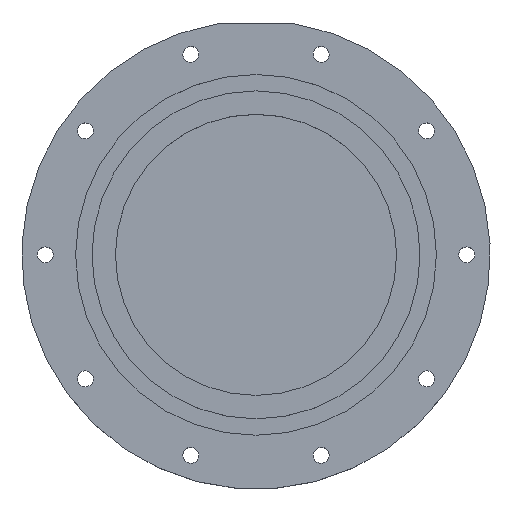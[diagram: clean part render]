
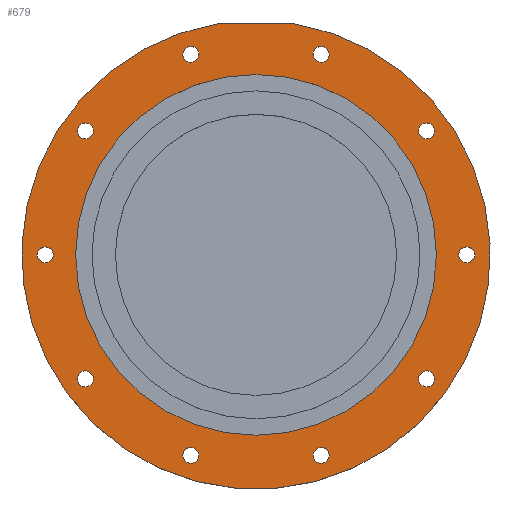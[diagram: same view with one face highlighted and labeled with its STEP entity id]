
A CAD part, top view. The second image highlights one B-rep face of the part: STEP entity #679.
In plain terms, the highlighted planar face has unit normal (0, 0, 1).
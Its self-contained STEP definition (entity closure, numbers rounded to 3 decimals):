
#37=FACE_BOUND('',#175,.T.);
#38=FACE_BOUND('',#176,.T.);
#39=FACE_BOUND('',#177,.T.);
#40=FACE_BOUND('',#178,.T.);
#41=FACE_BOUND('',#179,.T.);
#42=FACE_BOUND('',#180,.T.);
#43=FACE_BOUND('',#181,.T.);
#44=FACE_BOUND('',#182,.T.);
#45=FACE_BOUND('',#183,.T.);
#46=FACE_BOUND('',#184,.T.);
#47=FACE_BOUND('',#185,.T.);
#66=PLANE('',#796);
#108=FACE_OUTER_BOUND('',#174,.T.);
#174=EDGE_LOOP('',(#589,#590));
#175=EDGE_LOOP('',(#591));
#176=EDGE_LOOP('',(#592));
#177=EDGE_LOOP('',(#593));
#178=EDGE_LOOP('',(#594));
#179=EDGE_LOOP('',(#595));
#180=EDGE_LOOP('',(#596));
#181=EDGE_LOOP('',(#597));
#182=EDGE_LOOP('',(#598));
#183=EDGE_LOOP('',(#599));
#184=EDGE_LOOP('',(#600));
#185=EDGE_LOOP('',(#601));
#196=LINE('',#1085,#227);
#227=VECTOR('',#830,10.);
#270=CIRCLE('',#730,50.);
#273=CIRCLE('',#736,1.7);
#276=CIRCLE('',#742,1.7);
#279=CIRCLE('',#748,1.7);
#282=CIRCLE('',#754,1.7);
#285=CIRCLE('',#760,1.7);
#288=CIRCLE('',#766,1.7);
#291=CIRCLE('',#772,1.7);
#294=CIRCLE('',#778,1.7);
#297=CIRCLE('',#784,1.7);
#300=CIRCLE('',#790,1.7);
#303=CIRCLE('',#795,38.5);
#312=VERTEX_POINT('',#1083);
#313=VERTEX_POINT('',#1084);
#328=VERTEX_POINT('',#1123);
#331=VERTEX_POINT('',#1134);
#334=VERTEX_POINT('',#1145);
#337=VERTEX_POINT('',#1156);
#340=VERTEX_POINT('',#1167);
#343=VERTEX_POINT('',#1178);
#346=VERTEX_POINT('',#1189);
#349=VERTEX_POINT('',#1200);
#352=VERTEX_POINT('',#1211);
#355=VERTEX_POINT('',#1222);
#358=VERTEX_POINT('',#1231);
#371=EDGE_CURVE('',#312,#313,#196,.T.);
#386=EDGE_CURVE('',#313,#312,#270,.T.);
#391=EDGE_CURVE('',#328,#328,#273,.T.);
#396=EDGE_CURVE('',#331,#331,#276,.T.);
#401=EDGE_CURVE('',#334,#334,#279,.T.);
#406=EDGE_CURVE('',#337,#337,#282,.T.);
#411=EDGE_CURVE('',#340,#340,#285,.T.);
#416=EDGE_CURVE('',#343,#343,#288,.T.);
#421=EDGE_CURVE('',#346,#346,#291,.T.);
#426=EDGE_CURVE('',#349,#349,#294,.T.);
#431=EDGE_CURVE('',#352,#352,#297,.T.);
#436=EDGE_CURVE('',#355,#355,#300,.T.);
#439=EDGE_CURVE('',#358,#358,#303,.T.);
#589=ORIENTED_EDGE('',*,*,#371,.T.);
#590=ORIENTED_EDGE('',*,*,#386,.T.);
#591=ORIENTED_EDGE('',*,*,#391,.T.);
#592=ORIENTED_EDGE('',*,*,#396,.T.);
#593=ORIENTED_EDGE('',*,*,#401,.T.);
#594=ORIENTED_EDGE('',*,*,#406,.T.);
#595=ORIENTED_EDGE('',*,*,#411,.T.);
#596=ORIENTED_EDGE('',*,*,#416,.T.);
#597=ORIENTED_EDGE('',*,*,#421,.T.);
#598=ORIENTED_EDGE('',*,*,#426,.T.);
#599=ORIENTED_EDGE('',*,*,#431,.T.);
#600=ORIENTED_EDGE('',*,*,#436,.T.);
#601=ORIENTED_EDGE('',*,*,#439,.T.);
#679=ADVANCED_FACE('',(#108,#37,#38,#39,#40,#41,#42,#43,#44,#45,#46,#47),
#66,.T.);
#730=AXIS2_PLACEMENT_3D('',#1114,#860,#861);
#736=AXIS2_PLACEMENT_3D('',#1125,#874,#875);
#742=AXIS2_PLACEMENT_3D('',#1136,#888,#889);
#748=AXIS2_PLACEMENT_3D('',#1147,#902,#903);
#754=AXIS2_PLACEMENT_3D('',#1158,#916,#917);
#760=AXIS2_PLACEMENT_3D('',#1169,#930,#931);
#766=AXIS2_PLACEMENT_3D('',#1180,#944,#945);
#772=AXIS2_PLACEMENT_3D('',#1191,#958,#959);
#778=AXIS2_PLACEMENT_3D('',#1202,#972,#973);
#784=AXIS2_PLACEMENT_3D('',#1213,#986,#987);
#790=AXIS2_PLACEMENT_3D('',#1224,#1000,#1001);
#795=AXIS2_PLACEMENT_3D('',#1232,#1010,#1011);
#796=AXIS2_PLACEMENT_3D('',#1234,#1013,#1014);
#830=DIRECTION('',(-1.,0.,0.));
#860=DIRECTION('center_axis',(0.,0.,1.));
#861=DIRECTION('ref_axis',(1.,0.,0.));
#874=DIRECTION('center_axis',(0.,0.,-1.));
#875=DIRECTION('ref_axis',(-0.809,0.588,0.));
#888=DIRECTION('center_axis',(0.,0.,-1.));
#889=DIRECTION('ref_axis',(-0.309,0.951,0.));
#902=DIRECTION('center_axis',(0.,0.,-1.));
#903=DIRECTION('ref_axis',(0.309,0.951,0.));
#916=DIRECTION('center_axis',(0.,0.,-1.));
#917=DIRECTION('ref_axis',(0.809,0.588,0.));
#930=DIRECTION('center_axis',(0.,0.,-1.));
#931=DIRECTION('ref_axis',(1.,0.,0.));
#944=DIRECTION('center_axis',(0.,0.,-1.));
#945=DIRECTION('ref_axis',(0.809,-0.588,0.));
#958=DIRECTION('center_axis',(0.,0.,-1.));
#959=DIRECTION('ref_axis',(0.309,-0.951,0.));
#972=DIRECTION('center_axis',(0.,0.,-1.));
#973=DIRECTION('ref_axis',(-0.309,-0.951,0.));
#986=DIRECTION('center_axis',(0.,0.,-1.));
#987=DIRECTION('ref_axis',(-0.809,-0.588,0.));
#1000=DIRECTION('center_axis',(0.,0.,-1.));
#1001=DIRECTION('ref_axis',(-1.,0.,0.));
#1010=DIRECTION('center_axis',(0.,0.,-1.));
#1011=DIRECTION('ref_axis',(-1.,0.,0.));
#1013=DIRECTION('center_axis',(0.,0.,1.));
#1014=DIRECTION('ref_axis',(1.,0.,0.));
#1083=CARTESIAN_POINT('',(8.,49.356,14.));
#1084=CARTESIAN_POINT('',(-8.,49.356,14.));
#1085=CARTESIAN_POINT('',(-4.,49.356,14.));
#1114=CARTESIAN_POINT('Origin',(0.,0.,14.));
#1123=CARTESIAN_POINT('',(37.781,-27.45,14.));
#1125=CARTESIAN_POINT('Origin',(36.406,-26.45,14.));
#1134=CARTESIAN_POINT('',(14.431,-44.414,14.));
#1136=CARTESIAN_POINT('Origin',(13.906,-42.798,14.));
#1145=CARTESIAN_POINT('',(-14.431,-44.414,14.));
#1147=CARTESIAN_POINT('Origin',(-13.906,-42.798,14.));
#1156=CARTESIAN_POINT('',(-37.781,-27.45,14.));
#1158=CARTESIAN_POINT('Origin',(-36.406,-26.45,14.));
#1167=CARTESIAN_POINT('',(-46.7,0.,14.));
#1169=CARTESIAN_POINT('Origin',(-45.,0.,14.));
#1178=CARTESIAN_POINT('',(-37.781,27.45,14.));
#1180=CARTESIAN_POINT('Origin',(-36.406,26.45,14.));
#1189=CARTESIAN_POINT('',(-14.431,44.414,14.));
#1191=CARTESIAN_POINT('Origin',(-13.906,42.798,14.));
#1200=CARTESIAN_POINT('',(14.431,44.414,14.));
#1202=CARTESIAN_POINT('Origin',(13.906,42.798,14.));
#1211=CARTESIAN_POINT('',(37.781,27.45,14.));
#1213=CARTESIAN_POINT('Origin',(36.406,26.45,14.));
#1222=CARTESIAN_POINT('',(46.7,0.,14.));
#1224=CARTESIAN_POINT('Origin',(45.,0.,14.));
#1231=CARTESIAN_POINT('',(38.5,0.,14.));
#1232=CARTESIAN_POINT('Origin',(0.,0.,14.));
#1234=CARTESIAN_POINT('Origin',(0.,0.,14.));
